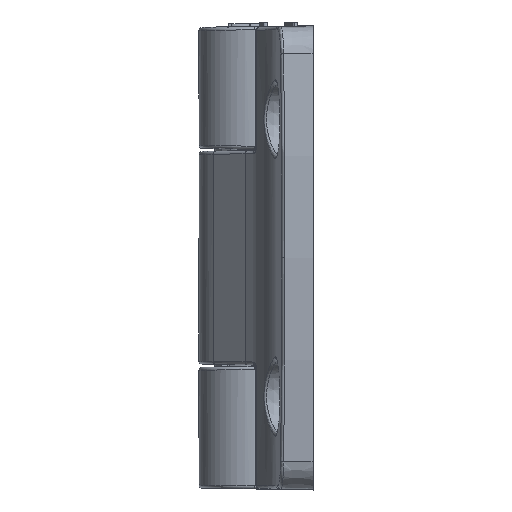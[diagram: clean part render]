
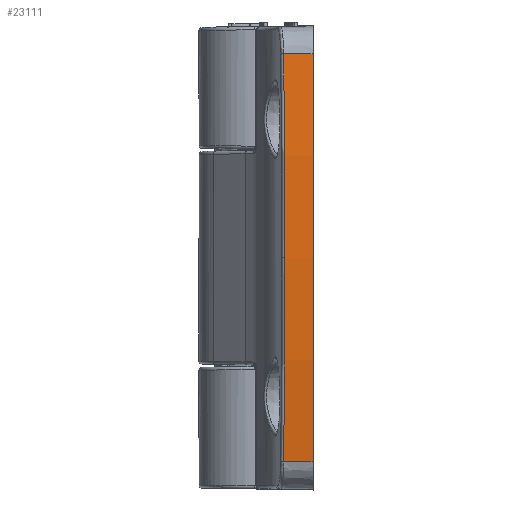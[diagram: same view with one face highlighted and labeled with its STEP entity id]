
A CAD part, left-side view. The second image highlights one B-rep face of the part: STEP entity #23111.
In plain terms, the highlighted conical face has half-angle 1 degrees and reference radius 282.578 mm.
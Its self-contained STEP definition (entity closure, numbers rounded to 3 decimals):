
#403 = ORIENTED_EDGE ( 'NONE', *, *, #28159, .F. ) ;
#972 = VERTEX_POINT ( 'NONE', #38453 ) ;
#975 = CARTESIAN_POINT ( 'NONE',  ( -31.199, -4.805, -27.596 ) ) ;
#3141 = CARTESIAN_POINT ( 'NONE',  ( 250., -9.5, 0. ) ) ;
#9704 = CARTESIAN_POINT ( 'NONE',  ( -30.551, -4.737, -33.085 ) ) ;
#13183 = AXIS2_PLACEMENT_3D ( 'NONE', #3141, #27567, #56995 ) ;
#15942 = EDGE_CURVE ( 'NONE', #972, #35198, #63779, .T. ) ;
#16032 = AXIS2_PLACEMENT_3D ( 'NONE', #48905, #79317, #89743 ) ;
#16913 = VERTEX_POINT ( 'NONE', #43812 ) ;
#17421 = CARTESIAN_POINT ( 'NONE',  ( -30.551, -4.737, 33.085 ) ) ;
#18072 = VERTEX_POINT ( 'NONE', #9704 ) ;
#23111 = ADVANCED_FACE ( 'NONE', ( #65440 ), #81689, .T. ) ;
#23667 = EDGE_CURVE ( 'NONE', #18072, #972, #77251, .T. ) ;
#27185 = CARTESIAN_POINT ( 'NONE',  ( -30.551, -4.737, 33.085 ) ) ;
#27226 = VECTOR ( 'NONE', #35562, 1000. ) ;
#27567 = DIRECTION ( 'NONE',  ( 0., -1., 0. ) ) ;
#28159 = EDGE_CURVE ( 'NONE', #90720, #35198, #44541, .T. ) ;
#29477 = CARTESIAN_POINT ( 'NONE',  ( -30.633, -9.5, 33.095 ) ) ;
#29702 = ORIENTED_EDGE ( 'NONE', *, *, #98729, .F. ) ;
#30934 = CARTESIAN_POINT ( 'NONE',  ( -32.499, -4.941, 0. ) ) ;
#34661 = CARTESIAN_POINT ( 'NONE',  ( -31.686, -4.856, 22.088 ) ) ;
#35198 = VERTEX_POINT ( 'NONE', #29477 ) ;
#35562 = DIRECTION ( 'NONE',  ( -0.017, -1., 0.002 ) ) ;
#38352 = CARTESIAN_POINT ( 'NONE',  ( -30.556, -5.025, -33.086 ) ) ;
#38394 = CARTESIAN_POINT ( 'NONE',  ( -31.686, -4.856, -22.088 ) ) ;
#38453 = CARTESIAN_POINT ( 'NONE',  ( -30.633, -9.5, -33.095 ) ) ;
#43642 = CARTESIAN_POINT ( 'NONE',  ( -31.199, -4.805, 27.596 ) ) ;
#43812 = CARTESIAN_POINT ( 'NONE',  ( -32.499, -4.941, 0. ) ) ;
#44541 = LINE ( 'NONE', #89406, #27226 ) ;
#45403 = CARTESIAN_POINT ( 'NONE',  ( -30.551, -4.737, -33.085 ) ) ;
#48905 = CARTESIAN_POINT ( 'NONE',  ( 250., -9.5, 0. ) ) ;
#54353 = CARTESIAN_POINT ( 'NONE',  ( -32.499, -4.941, -5.527 ) ) ;
#55075 = ORIENTED_EDGE ( 'NONE', *, *, #15942, .T. ) ;
#56995 = DIRECTION ( 'NONE',  ( 0., 0., -1. ) ) ;
#58096 = CARTESIAN_POINT ( 'NONE',  ( -32.499, -4.941, 5.527 ) ) ;
#58575 = B_SPLINE_CURVE_WITH_KNOTS ( 'NONE', 3,
 ( #89992, #58096, #96477, #34661, #43642, #27185 ),
 .UNSPECIFIED., .F., .F.,
 ( 4, 2, 4 ),
 ( 0., 0.5, 1. ),
 .UNSPECIFIED. ) ;
#62658 = VECTOR ( 'NONE', #85708, 1000. ) ;
#63779 = CIRCLE ( 'NONE', #16032, 282.578 ) ;
#64307 = ORIENTED_EDGE ( 'NONE', *, *, #79415, .F. ) ;
#65440 = FACE_OUTER_BOUND ( 'NONE', #83865, .T. ) ;
#66005 = ORIENTED_EDGE ( 'NONE', *, *, #23667, .T. ) ;
#77251 = LINE ( 'NONE', #38352, #62658 ) ;
#77766 = CARTESIAN_POINT ( 'NONE',  ( -32.336, -4.924, -11.054 ) ) ;
#79317 = DIRECTION ( 'NONE',  ( 0., 1., 0. ) ) ;
#79415 = EDGE_CURVE ( 'NONE', #16913, #90720, #58575, .T. ) ;
#81689 = CONICAL_SURFACE ( 'NONE', #13183, 282.578, 0.017 ) ;
#82478 = B_SPLINE_CURVE_WITH_KNOTS ( 'NONE', 3,
 ( #45403, #975, #38394, #77766, #54353, #30934 ),
 .UNSPECIFIED., .F., .F.,
 ( 4, 2, 4 ),
 ( 0., 0.5, 1. ),
 .UNSPECIFIED. ) ;
#83865 = EDGE_LOOP ( 'NONE', ( #66005, #55075, #403, #64307, #29702 ) ) ;
#85708 = DIRECTION ( 'NONE',  ( -0.017, -1., -0.002 ) ) ;
#89406 = CARTESIAN_POINT ( 'NONE',  ( -8680.604, -499000., 1053.174 ) ) ;
#89743 = DIRECTION ( 'NONE',  ( 0., 0., -1. ) ) ;
#89992 = CARTESIAN_POINT ( 'NONE',  ( -32.499, -4.941, 0. ) ) ;
#90720 = VERTEX_POINT ( 'NONE', #17421 ) ;
#96477 = CARTESIAN_POINT ( 'NONE',  ( -32.336, -4.924, 11.054 ) ) ;
#98729 = EDGE_CURVE ( 'NONE', #18072, #16913, #82478, .T. ) ;
